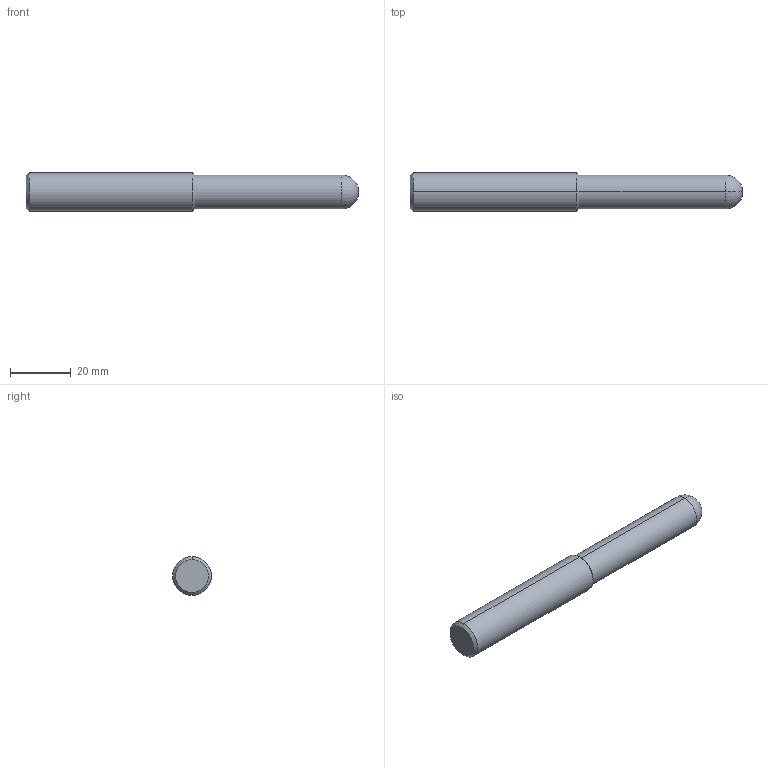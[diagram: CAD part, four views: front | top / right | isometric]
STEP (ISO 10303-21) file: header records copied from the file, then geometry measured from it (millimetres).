
FILE_DESCRIPTION (( 'STEP AP214' ), '1' );
FILE_NAME ('01-0226.STEP', '2021-02-10T00:18:39', ( 'USER' ), ( '' ), 'SwSTEP 2.0', 'SolidWorks 2018', '' );
FILE_SCHEMA (( 'AUTOMOTIVE_DESIGN' ));
Length unit declared in the file: millimetre
Products named in the file (2): 01-0226
Bounding box: 109.1 x 12.7 x 12.7 mm (x, y, z)
Volume: 12026.8 mm3; surface area: 4203 mm2
Topology: 1 solids, 1 shells, 12 faces, 22 edges, 12 vertices
Faces by surface type: cone 4, cylinder 4, torus 2, plane 2
Entity records: 345 total; most frequent: DIRECTION 64, CARTESIAN_POINT 48, ORIENTED_EDGE 44, AXIS2_PLACEMENT_3D 28, EDGE_CURVE 22, CIRCLE 14, EDGE_LOOP 12, VERTEX_POINT 12
